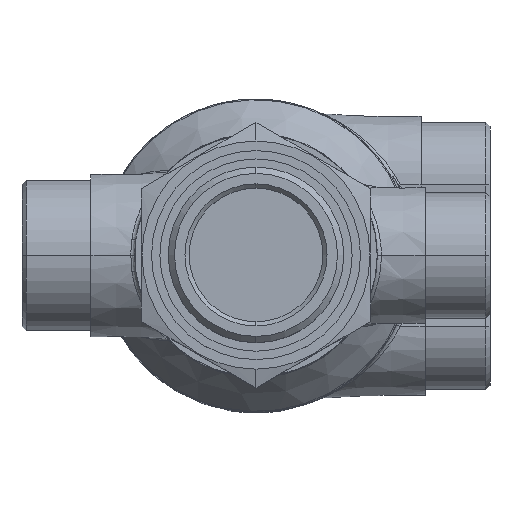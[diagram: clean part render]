
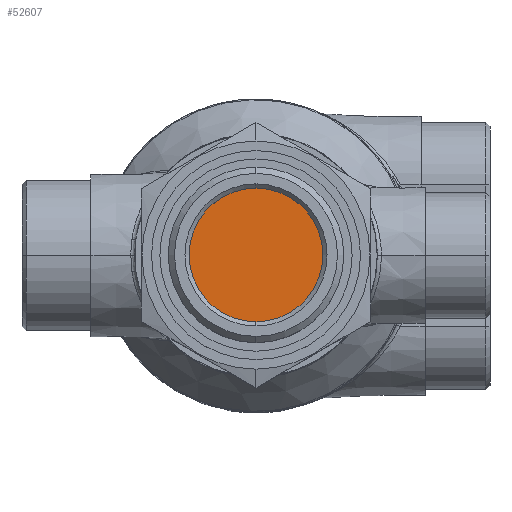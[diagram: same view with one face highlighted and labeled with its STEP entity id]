
A CAD part, top view. The second image highlights one B-rep face of the part: STEP entity #52607.
In plain terms, the highlighted planar face has unit normal (0, 0, 1).
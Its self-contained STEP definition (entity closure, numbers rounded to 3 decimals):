
#21232=CARTESIAN_POINT('',(0.,0.,176.2));
#21233=DIRECTION('',(0.,0.,-1.));
#21234=DIRECTION('',(0.,-1.,0.));
#21235=AXIS2_PLACEMENT_3D('',#21232,#21233,#21234);
#21240=CARTESIAN_POINT('',(0.,0.,176.2));
#21241=DIRECTION('',(0.,0.,-1.));
#21242=DIRECTION('',(0.,1.,0.));
#21243=AXIS2_PLACEMENT_3D('',#21240,#21241,#21242);
#24390=CARTESIAN_POINT('',(0.,16.,176.2));
#24391=CARTESIAN_POINT('',(0.,-16.,176.2));
#24392=VERTEX_POINT('',#24390);
#24393=VERTEX_POINT('',#24391);
#52597=CARTESIAN_POINT('',(0.,0.,176.2));
#52598=DIRECTION('',(0.,0.,1.));
#52599=DIRECTION('',(1.,0.,0.));
#52600=AXIS2_PLACEMENT_3D('',#52597,#52598,#52599);
#52601=PLANE('',#52600);
#52603=ORIENTED_EDGE('',*,*,#52602,.T.);
#52604=ORIENTED_EDGE('',*,*,#52580,.T.);
#52605=EDGE_LOOP('',(#52603,#52604));
#52606=FACE_OUTER_BOUND('',#52605,.F.);
#21236=CIRCLE('',#21235,16.);
#21244=CIRCLE('',#21243,16.);
#52580=EDGE_CURVE('',#24392,#24393,#21244,.T.);
#52602=EDGE_CURVE('',#24393,#24392,#21236,.T.);
#52607=ADVANCED_FACE('',(#52606),#52601,.T.);
